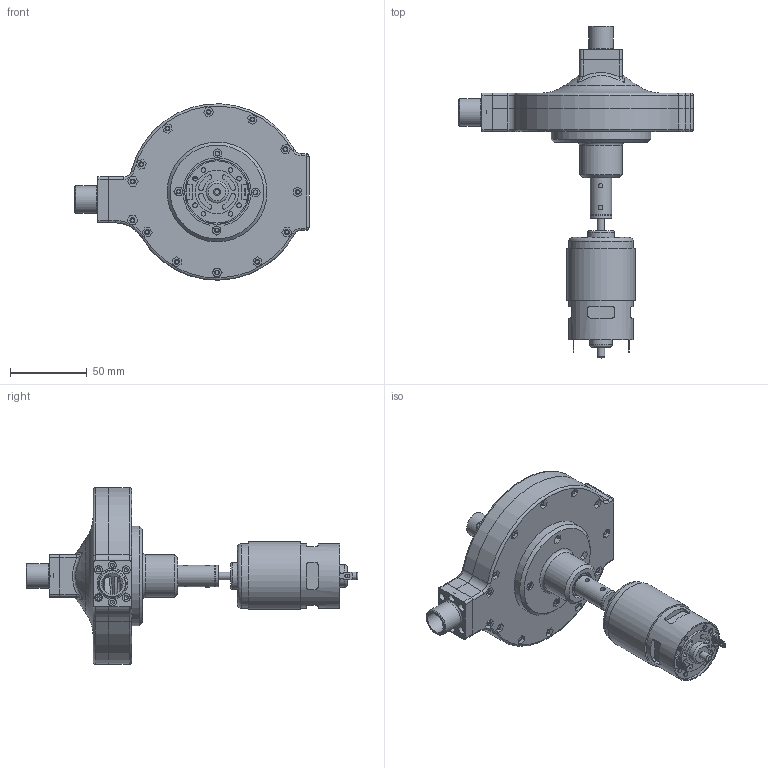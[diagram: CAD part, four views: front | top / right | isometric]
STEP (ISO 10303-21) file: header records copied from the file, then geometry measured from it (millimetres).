
FILE_DESCRIPTION(/* description */ (''),/* implementation_level */ '2;1');
FILE_NAME(/* name */ 'Assieme_pompa_small_v2.stp',/* time_stamp */ '2025-04-25T08:59:21+02:00',/* author */ ('R5800u'),/* organization */ (''),/* preprocessor_version */ 'ST-DEVELOPER v20',/* originating_system */ 'Autodesk Inventor 2025',/* authorisation */ '');
FILE_SCHEMA (('AUTOMOTIVE_DESIGN { 1 0 10303 214 3 1 1 }'));
Length unit declared in the file: millimetre
Products named in the file (19): Assieme_pompa_small; pompa centrifuga; albero_12mm; supporto_albero; cassa_bassa; cassa_alta; AS 1420 - 1973 - M3 x 20; out; in; AS 1112 - M3  Tipo 5; AS 1420 - 1973 - M3 x 10; rondella_5mm; connettore_rigido; tappo_connettore_8mm; AS 1421 - M3 x 4 Punta a coppa; 775; Unbrako - M2,5 x 25; %3% BS 290 - SKF 625; anello_5mm
Assembly tree (35 placements, depth 2):
  Assieme_pompa_small
    pompa centrifuga
    %3% BS 290 - SKF 625  x2
    albero_12mm
    supporto_albero
    cassa_bassa
    cassa_alta
    AS 1420 - 1973 - M3 x 20  x13
    AS 1112 - M3  Tipo 5  x3
    out
    in
    AS 1420 - 1973 - M3 x 10
    Unbrako - M2,5 x 25  x2
    rondella_5mm
    connettore_rigido
    AS 1421 - M3 x 4 Punta a coppa  x2
    tappo_connettore_8mm
    775
    anello_5mm
Bounding box: 152.62 x 216.25 x 114.94 mm (x, y, z)
Volume: 354711.8 mm3; surface area: 131174.3 mm2
Topology: 48 solids, 48 shells, 1131 faces, 2785 edges, 1797 vertices
Faces by surface type: plane 544, cylinder 287, cone 109, bspline 94, torus 87, sphere 10
Full cylindrical faces by diameter (mm): 2 x1, 2.459 x3, 2.5 x2, 2.65 x24, 3 x28, 3.2 x34, 3.242 x2, 4.5 x2, 5 x7, 5.1 x1, 5.2 x13, 5.5 x31, 7.8 x1, 8 x1, 8.52 x4, 9 x1, 10 x2, 11.2 x1, 12 x1, 12.48 x4, 14 x3, 14.5 x1, 15.101 x1, 16 x4, 16.2 x1, 17 x1, 17.4 x1, 18 x1, 20 x1, 28 x1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
Entity records: 32667 total; most frequent: CARTESIAN_POINT 11830, ORIENTED_EDGE 4080, DIRECTION 4027, EDGE_CURVE 2040, AXIS2_PLACEMENT_3D 1531, VERTEX_POINT 1336, EDGE_LOOP 1060, LINE 965
